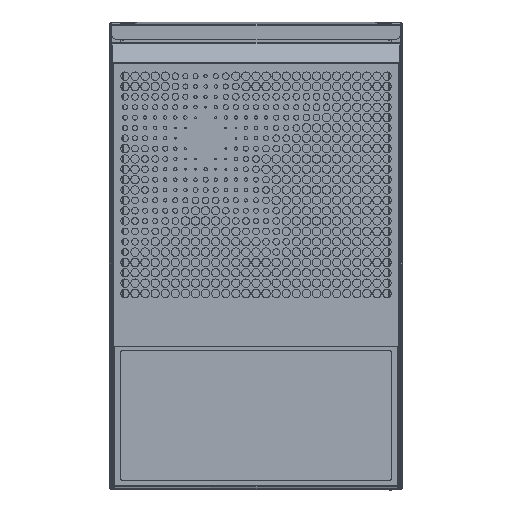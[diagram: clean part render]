
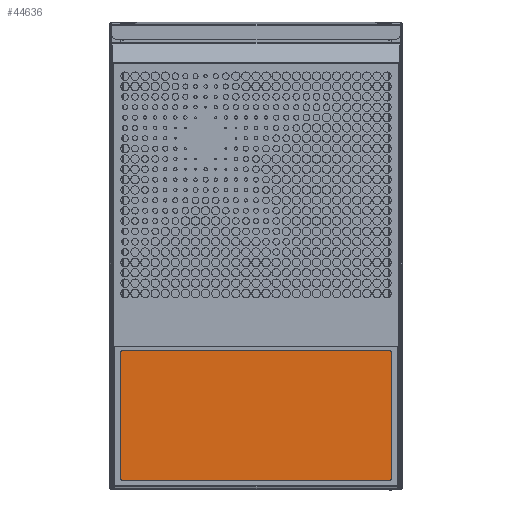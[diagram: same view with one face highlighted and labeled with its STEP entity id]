
A CAD part, top view. The second image highlights one B-rep face of the part: STEP entity #44636.
In plain terms, the highlighted planar face has unit normal (0, 0, 1).
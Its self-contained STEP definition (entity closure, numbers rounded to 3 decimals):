
#513 = CARTESIAN_POINT ( 'NONE',  ( 170., 3.929, 118.603 ) ) ;
#1535 = VERTEX_POINT ( 'NONE', #52761 ) ;
#2424 = EDGE_CURVE ( 'NONE', #36363, #57758, #44476, .T. ) ;
#2689 = CARTESIAN_POINT ( 'NONE',  ( 170., 195.929, 118.603 ) ) ;
#4400 = DIRECTION ( 'NONE',  ( 1., 0., 0. ) ) ;
#5454 = LINE ( 'NONE', #49313, #15730 ) ;
#5721 = ORIENTED_EDGE ( 'NONE', *, *, #2424, .T. ) ;
#10583 = AXIS2_PLACEMENT_3D ( 'NONE', #44202, #70861, #4400 ) ;
#10764 = VERTEX_POINT ( 'NONE', #40613 ) ;
#11106 = ORIENTED_EDGE ( 'NONE', *, *, #52764, .T. ) ;
#13652 = ORIENTED_EDGE ( 'NONE', *, *, #18778, .T. ) ;
#14748 = EDGE_LOOP ( 'NONE', ( #5721, #13652, #11106, #39018 ) ) ;
#15730 = VECTOR ( 'NONE', #22628, 1000. ) ;
#17831 = VECTOR ( 'NONE', #59325, 1000. ) ;
#18778 = EDGE_CURVE ( 'NONE', #57758, #10764, #48010, .T. ) ;
#20029 = LINE ( 'NONE', #48150, #33675 ) ;
#22628 = DIRECTION ( 'NONE',  ( 0., -1., 0. ) ) ;
#25571 = VECTOR ( 'NONE', #37418, 1000. ) ;
#26079 = CARTESIAN_POINT ( 'NONE',  ( 170., 3.929, 118.603 ) ) ;
#32299 = CARTESIAN_POINT ( 'NONE',  ( -170., 195.929, 118.603 ) ) ;
#33675 = VECTOR ( 'NONE', #53618, 1000. ) ;
#36363 = VERTEX_POINT ( 'NONE', #513 ) ;
#37418 = DIRECTION ( 'NONE',  ( -1., 0., 0. ) ) ;
#39018 = ORIENTED_EDGE ( 'NONE', *, *, #41517, .T. ) ;
#40613 = CARTESIAN_POINT ( 'NONE',  ( -170., 195.929, 118.603 ) ) ;
#41517 = EDGE_CURVE ( 'NONE', #1535, #36363, #20029, .T. ) ;
#44202 = CARTESIAN_POINT ( 'NONE',  ( -170., 3.929, 118.603 ) ) ;
#44476 = LINE ( 'NONE', #26079, #17831 ) ;
#44636 = ADVANCED_FACE ( 'NONE', ( #54426 ), #55869, .T. ) ;
#48010 = LINE ( 'NONE', #32299, #25571 ) ;
#48150 = CARTESIAN_POINT ( 'NONE',  ( -170., 3.929, 118.603 ) ) ;
#49313 = CARTESIAN_POINT ( 'NONE',  ( -170., 3.929, 118.603 ) ) ;
#52761 = CARTESIAN_POINT ( 'NONE',  ( -170., 3.929, 118.603 ) ) ;
#52764 = EDGE_CURVE ( 'NONE', #10764, #1535, #5454, .T. ) ;
#53618 = DIRECTION ( 'NONE',  ( 1., 0., 0. ) ) ;
#54426 = FACE_OUTER_BOUND ( 'NONE', #14748, .T. ) ;
#55869 = PLANE ( 'NONE',  #10583 ) ;
#57758 = VERTEX_POINT ( 'NONE', #2689 ) ;
#59325 = DIRECTION ( 'NONE',  ( 0., 1., 0. ) ) ;
#70861 = DIRECTION ( 'NONE',  ( 0., 0., 1. ) ) ;
